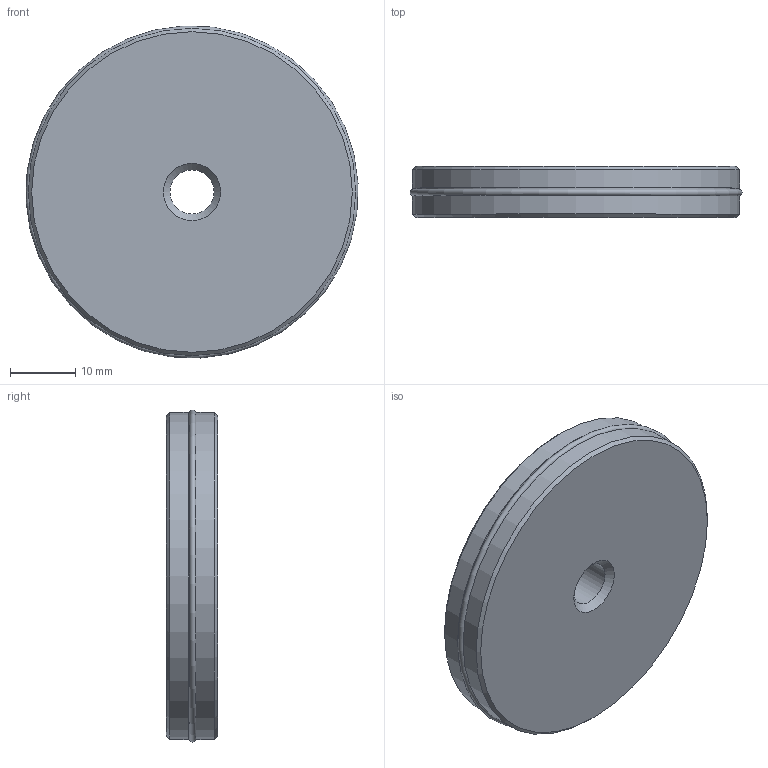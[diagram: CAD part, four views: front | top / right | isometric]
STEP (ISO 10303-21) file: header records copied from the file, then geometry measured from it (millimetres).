
FILE_DESCRIPTION(/* description */ (''),/* implementation_level */ '2;1');
FILE_NAME(/* name */ '\\dc01\daten\CAD\Standard\Daten\3D-Datenbank\ZS\step-Daten\G-ZS100-1.stp',/* time_stamp */ '2019-03-22T09:32:33+01:00',/* author */ ('ysplieth'),/* organization */ (''),/* preprocessor_version */ 'ST-DEVELOPER v17',/* originating_system */ 'Autodesk Inventor 2018',/* authorisation */ '');
FILE_SCHEMA (('AUTOMOTIVE_DESIGN { 1 0 10303 214 3 1 1 }'));
Length unit declared in the file: millimetre
Products named in the file (1): Bauteil1
Bounding box: 50.74 x 7.8 x 50.74 mm (x, y, z)
Volume: 14985 mm3; surface area: 5804.4 mm2
Topology: 2 solids, 2 shells, 13 faces, 29 edges, 20 vertices
Faces by surface type: cone 4, cylinder 4, plane 4, torus 1
Full cylindrical faces by diameter (mm): 6.75 x1, 48.8 x1, 50 x2
Entity records: 445 total; most frequent: DIRECTION 78, CARTESIAN_POINT 63, ORIENTED_EDGE 58, AXIS2_PLACEMENT_3D 35, EDGE_CURVE 29, CIRCLE 21, VERTEX_POINT 20, EDGE_LOOP 17
